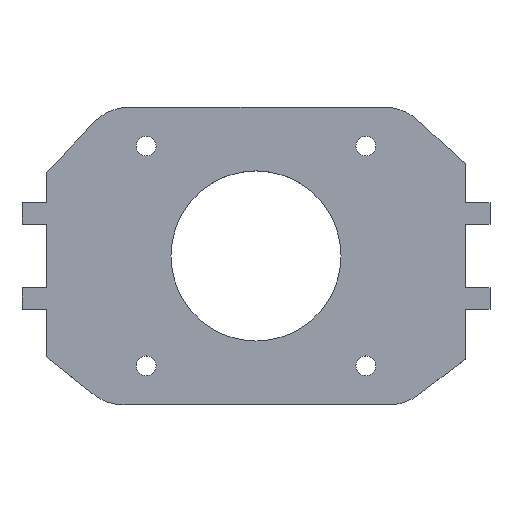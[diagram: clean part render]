
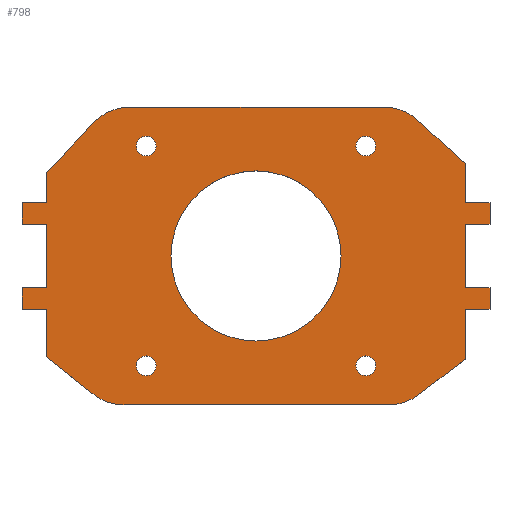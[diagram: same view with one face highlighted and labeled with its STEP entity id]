
A CAD part, top view. The second image highlights one B-rep face of the part: STEP entity #798.
In plain terms, the highlighted planar face has unit normal (0, 0, 1).
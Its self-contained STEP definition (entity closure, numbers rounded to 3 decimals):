
#24=FACE_BOUND('',#135,.T.);
#25=FACE_BOUND('',#136,.T.);
#26=FACE_BOUND('',#137,.T.);
#27=FACE_BOUND('',#138,.T.);
#28=FACE_BOUND('',#139,.T.);
#48=PLANE('',#872);
#82=FACE_OUTER_BOUND('',#134,.T.);
#134=EDGE_LOOP('',(#653,#654,#655,#656,#657,#658,#659,#660,#661,#662,#663,
#664,#665,#666,#667,#668,#669,#670,#671,#672,#673,#674,#675,#676,#677,#678,
#679,#680));
#135=EDGE_LOOP('',(#681));
#136=EDGE_LOOP('',(#682));
#137=EDGE_LOOP('',(#683));
#138=EDGE_LOOP('',(#684));
#139=EDGE_LOOP('',(#685));
#163=LINE('',#1142,#248);
#166=LINE('',#1155,#251);
#171=LINE('',#1171,#256);
#176=LINE('',#1186,#261);
#178=LINE('',#1190,#263);
#182=LINE('',#1198,#267);
#202=LINE('',#1253,#287);
#204=LINE('',#1257,#289);
#206=LINE('',#1262,#291);
#209=LINE('',#1267,#294);
#211=LINE('',#1271,#296);
#212=LINE('',#1273,#297);
#214=LINE('',#1278,#299);
#216=LINE('',#1281,#301);
#217=LINE('',#1284,#302);
#218=LINE('',#1286,#303);
#219=LINE('',#1290,#304);
#220=LINE('',#1294,#305);
#221=LINE('',#1295,#306);
#222=LINE('',#1297,#307);
#223=LINE('',#1299,#308);
#224=LINE('',#1303,#309);
#225=LINE('',#1307,#310);
#226=LINE('',#1308,#311);
#248=VECTOR('',#917,3.);
#251=VECTOR('',#930,3.);
#256=VECTOR('',#945,3.);
#261=VECTOR('',#960,3.5);
#263=VECTOR('',#964,13.);
#267=VECTOR('',#970,10.);
#287=VECTOR('',#1012,3.5);
#289=VECTOR('',#1016,10.);
#291=VECTOR('',#1020,10.);
#294=VECTOR('',#1025,13.);
#296=VECTOR('',#1029,10.);
#297=VECTOR('',#1032,10.);
#299=VECTOR('',#1036,10.);
#301=VECTOR('',#1040,3.);
#302=VECTOR('',#1043,10.);
#303=VECTOR('',#1044,8.343);
#304=VECTOR('',#1047,37.317);
#305=VECTOR('',#1050,8.235);
#306=VECTOR('',#1051,5.043);
#307=VECTOR('',#1052,10.);
#308=VECTOR('',#1053,9.073);
#309=VECTOR('',#1056,35.878);
#310=VECTOR('',#1059,9.641);
#311=VECTOR('',#1060,2.282);
#346=CIRCLE('',#873,7.);
#347=CIRCLE('',#874,7.);
#348=CIRCLE('',#875,7.);
#349=CIRCLE('',#876,7.);
#350=CIRCLE('',#877,1.4);
#351=CIRCLE('',#878,1.4);
#352=CIRCLE('',#879,12.);
#353=CIRCLE('',#880,1.4);
#354=CIRCLE('',#881,1.4);
#357=VERTEX_POINT('',#1135);
#360=VERTEX_POINT('',#1140);
#364=VERTEX_POINT('',#1152);
#365=VERTEX_POINT('',#1154);
#370=VERTEX_POINT('',#1168);
#371=VERTEX_POINT('',#1170);
#376=VERTEX_POINT('',#1185);
#377=VERTEX_POINT('',#1189);
#380=VERTEX_POINT('',#1197);
#405=VERTEX_POINT('',#1255);
#406=VERTEX_POINT('',#1259);
#407=VERTEX_POINT('',#1261);
#408=VERTEX_POINT('',#1265);
#409=VERTEX_POINT('',#1269);
#410=VERTEX_POINT('',#1275);
#411=VERTEX_POINT('',#1277);
#412=VERTEX_POINT('',#1283);
#413=VERTEX_POINT('',#1285);
#414=VERTEX_POINT('',#1287);
#415=VERTEX_POINT('',#1289);
#416=VERTEX_POINT('',#1291);
#417=VERTEX_POINT('',#1293);
#418=VERTEX_POINT('',#1296);
#419=VERTEX_POINT('',#1298);
#420=VERTEX_POINT('',#1300);
#421=VERTEX_POINT('',#1302);
#422=VERTEX_POINT('',#1304);
#423=VERTEX_POINT('',#1306);
#424=VERTEX_POINT('',#1309);
#425=VERTEX_POINT('',#1311);
#426=VERTEX_POINT('',#1313);
#427=VERTEX_POINT('',#1315);
#428=VERTEX_POINT('',#1317);
#435=EDGE_CURVE('',#357,#360,#163,.T.);
#440=EDGE_CURVE('',#365,#364,#166,.T.);
#447=EDGE_CURVE('',#371,#370,#171,.T.);
#454=EDGE_CURVE('',#371,#376,#176,.T.);
#456=EDGE_CURVE('',#377,#376,#178,.T.);
#460=EDGE_CURVE('',#380,#357,#182,.T.);
#489=EDGE_CURVE('',#377,#360,#202,.T.);
#491=EDGE_CURVE('',#370,#405,#204,.T.);
#493=EDGE_CURVE('',#406,#407,#206,.T.);
#496=EDGE_CURVE('',#406,#408,#209,.T.);
#498=EDGE_CURVE('',#364,#409,#211,.T.);
#499=EDGE_CURVE('',#365,#408,#212,.T.);
#501=EDGE_CURVE('',#411,#410,#214,.T.);
#503=EDGE_CURVE('',#410,#407,#216,.T.);
#504=EDGE_CURVE('',#405,#412,#217,.T.);
#505=EDGE_CURVE('',#412,#413,#218,.T.);
#506=EDGE_CURVE('',#413,#414,#346,.T.);
#507=EDGE_CURVE('',#414,#415,#219,.T.);
#508=EDGE_CURVE('',#415,#416,#347,.T.);
#509=EDGE_CURVE('',#416,#417,#220,.T.);
#510=EDGE_CURVE('',#417,#411,#221,.T.);
#511=EDGE_CURVE('',#409,#418,#222,.T.);
#512=EDGE_CURVE('',#418,#419,#223,.T.);
#513=EDGE_CURVE('',#419,#420,#348,.T.);
#514=EDGE_CURVE('',#420,#421,#224,.T.);
#515=EDGE_CURVE('',#421,#422,#349,.T.);
#516=EDGE_CURVE('',#422,#423,#225,.T.);
#517=EDGE_CURVE('',#423,#380,#226,.T.);
#518=EDGE_CURVE('',#424,#424,#350,.T.);
#519=EDGE_CURVE('',#425,#425,#351,.T.);
#520=EDGE_CURVE('',#426,#426,#352,.T.);
#521=EDGE_CURVE('',#427,#427,#353,.T.);
#522=EDGE_CURVE('',#428,#428,#354,.T.);
#653=ORIENTED_EDGE('',*,*,#460,.T.);
#654=ORIENTED_EDGE('',*,*,#435,.T.);
#655=ORIENTED_EDGE('',*,*,#489,.F.);
#656=ORIENTED_EDGE('',*,*,#456,.T.);
#657=ORIENTED_EDGE('',*,*,#454,.F.);
#658=ORIENTED_EDGE('',*,*,#447,.T.);
#659=ORIENTED_EDGE('',*,*,#491,.T.);
#660=ORIENTED_EDGE('',*,*,#504,.T.);
#661=ORIENTED_EDGE('',*,*,#505,.T.);
#662=ORIENTED_EDGE('',*,*,#506,.T.);
#663=ORIENTED_EDGE('',*,*,#507,.T.);
#664=ORIENTED_EDGE('',*,*,#508,.T.);
#665=ORIENTED_EDGE('',*,*,#509,.T.);
#666=ORIENTED_EDGE('',*,*,#510,.T.);
#667=ORIENTED_EDGE('',*,*,#501,.T.);
#668=ORIENTED_EDGE('',*,*,#503,.T.);
#669=ORIENTED_EDGE('',*,*,#493,.F.);
#670=ORIENTED_EDGE('',*,*,#496,.T.);
#671=ORIENTED_EDGE('',*,*,#499,.F.);
#672=ORIENTED_EDGE('',*,*,#440,.T.);
#673=ORIENTED_EDGE('',*,*,#498,.T.);
#674=ORIENTED_EDGE('',*,*,#511,.T.);
#675=ORIENTED_EDGE('',*,*,#512,.T.);
#676=ORIENTED_EDGE('',*,*,#513,.T.);
#677=ORIENTED_EDGE('',*,*,#514,.T.);
#678=ORIENTED_EDGE('',*,*,#515,.T.);
#679=ORIENTED_EDGE('',*,*,#516,.T.);
#680=ORIENTED_EDGE('',*,*,#517,.T.);
#681=ORIENTED_EDGE('',*,*,#518,.F.);
#682=ORIENTED_EDGE('',*,*,#519,.F.);
#683=ORIENTED_EDGE('',*,*,#520,.F.);
#684=ORIENTED_EDGE('',*,*,#521,.F.);
#685=ORIENTED_EDGE('',*,*,#522,.F.);
#798=ADVANCED_FACE('',(#82,#24,#25,#26,#27,#28),#48,.T.);
#872=AXIS2_PLACEMENT_3D('',#1282,#1041,#1042);
#873=AXIS2_PLACEMENT_3D('',#1288,#1045,#1046);
#874=AXIS2_PLACEMENT_3D('',#1292,#1048,#1049);
#875=AXIS2_PLACEMENT_3D('',#1301,#1054,#1055);
#876=AXIS2_PLACEMENT_3D('',#1305,#1057,#1058);
#877=AXIS2_PLACEMENT_3D('',#1310,#1061,#1062);
#878=AXIS2_PLACEMENT_3D('',#1312,#1063,#1064);
#879=AXIS2_PLACEMENT_3D('',#1314,#1065,#1066);
#880=AXIS2_PLACEMENT_3D('',#1316,#1067,#1068);
#881=AXIS2_PLACEMENT_3D('',#1318,#1069,#1070);
#917=DIRECTION('',(0.,-1.,0.));
#930=DIRECTION('',(0.,1.,0.));
#945=DIRECTION('',(0.,-1.,0.));
#960=DIRECTION('',(1.,0.,0.));
#964=DIRECTION('',(0.,-1.,0.));
#970=DIRECTION('',(-1.,0.,0.));
#1012=DIRECTION('',(-1.,0.,0.));
#1016=DIRECTION('',(1.,0.,0.));
#1020=DIRECTION('',(1.,0.,0.));
#1025=DIRECTION('',(0.,1.,0.));
#1029=DIRECTION('',(-1.,0.,0.));
#1032=DIRECTION('',(-1.,0.,0.));
#1036=DIRECTION('',(1.,0.,0.));
#1040=DIRECTION('',(0.,1.,0.));
#1041=DIRECTION('center_axis',(0.,0.,1.));
#1042=DIRECTION('ref_axis',(1.,0.,0.));
#1043=DIRECTION('',(0.,-1.,0.));
#1044=DIRECTION('',(0.779,-0.627,0.));
#1045=DIRECTION('center_axis',(0.,0.,1.));
#1046=DIRECTION('ref_axis',(1.,0.,0.));
#1047=DIRECTION('',(1.,0.,0.));
#1048=DIRECTION('center_axis',(0.,0.,1.));
#1049=DIRECTION('ref_axis',(1.,0.,0.));
#1050=DIRECTION('',(0.794,0.609,0.));
#1051=DIRECTION('',(0.,1.,0.));
#1052=DIRECTION('',(0.,1.,0.));
#1053=DIRECTION('',(-0.735,0.678,0.));
#1054=DIRECTION('center_axis',(0.,0.,1.));
#1055=DIRECTION('ref_axis',(1.,0.,0.));
#1056=DIRECTION('',(-1.,0.,0.));
#1057=DIRECTION('center_axis',(0.,0.,1.));
#1058=DIRECTION('ref_axis',(1.,0.,0.));
#1059=DIRECTION('',(-0.686,-0.728,0.));
#1060=DIRECTION('',(0.,-1.,0.));
#1061=DIRECTION('center_axis',(0.,0.,1.));
#1062=DIRECTION('ref_axis',(1.,0.,0.));
#1063=DIRECTION('center_axis',(0.,0.,1.));
#1064=DIRECTION('ref_axis',(1.,0.,0.));
#1065=DIRECTION('center_axis',(0.,0.,1.));
#1066=DIRECTION('ref_axis',(1.,0.,0.));
#1067=DIRECTION('center_axis',(0.,0.,1.));
#1068=DIRECTION('ref_axis',(1.,0.,0.));
#1069=DIRECTION('center_axis',(0.,0.,1.));
#1070=DIRECTION('ref_axis',(1.,0.,0.));
#1135=CARTESIAN_POINT('',(-33.,7.5,3.));
#1140=CARTESIAN_POINT('',(-33.,4.5,3.));
#1142=CARTESIAN_POINT('',(-33.,9.5,3.));
#1152=CARTESIAN_POINT('',(33.,7.5,3.));
#1154=CARTESIAN_POINT('',(33.,4.5,3.));
#1155=CARTESIAN_POINT('',(33.,6.5,3.));
#1168=CARTESIAN_POINT('',(-33.,-7.5,3.));
#1170=CARTESIAN_POINT('',(-33.,-4.5,3.));
#1171=CARTESIAN_POINT('',(-33.,-6.5,3.));
#1185=CARTESIAN_POINT('',(-29.5,-4.5,3.));
#1186=CARTESIAN_POINT('',(-29.5,-4.5,3.));
#1189=CARTESIAN_POINT('',(-29.5,4.5,3.));
#1190=CARTESIAN_POINT('',(-29.5,6.5,3.));
#1197=CARTESIAN_POINT('',(-29.5,7.5,3.));
#1198=CARTESIAN_POINT('',(-14.75,7.5,3.));
#1253=CARTESIAN_POINT('',(-33.,4.5,3.));
#1255=CARTESIAN_POINT('',(-29.5,-7.5,3.));
#1257=CARTESIAN_POINT('',(-15.625,-7.5,3.));
#1259=CARTESIAN_POINT('',(29.5,-4.5,3.));
#1261=CARTESIAN_POINT('',(33.,-4.5,3.));
#1262=CARTESIAN_POINT('',(33.,-4.5,3.));
#1265=CARTESIAN_POINT('',(29.5,4.5,3.));
#1267=CARTESIAN_POINT('',(29.5,-6.5,3.));
#1269=CARTESIAN_POINT('',(29.5,7.5,3.));
#1271=CARTESIAN_POINT('',(15.625,7.5,3.));
#1273=CARTESIAN_POINT('',(29.5,4.5,3.));
#1275=CARTESIAN_POINT('',(33.,-7.5,3.));
#1277=CARTESIAN_POINT('',(29.5,-7.5,3.));
#1278=CARTESIAN_POINT('',(15.625,-7.5,3.));
#1281=CARTESIAN_POINT('',(33.,-9.5,3.));
#1282=CARTESIAN_POINT('Origin',(0.,0.,3.));
#1283=CARTESIAN_POINT('',(-29.5,-14.218,3.));
#1284=CARTESIAN_POINT('',(-29.5,-4.75,3.));
#1285=CARTESIAN_POINT('',(-23.003,-19.451,3.));
#1286=CARTESIAN_POINT('',(-29.5,-14.218,3.));
#1287=CARTESIAN_POINT('',(-18.612,-21.,3.));
#1288=CARTESIAN_POINT('Origin',(-18.612,-14.,3.));
#1289=CARTESIAN_POINT('',(18.706,-21.,3.));
#1290=CARTESIAN_POINT('',(-18.612,-21.,3.));
#1291=CARTESIAN_POINT('',(22.965,-19.555,3.));
#1292=CARTESIAN_POINT('Origin',(18.706,-14.,3.));
#1293=CARTESIAN_POINT('',(29.5,-14.543,3.));
#1294=CARTESIAN_POINT('',(22.965,-19.555,3.));
#1295=CARTESIAN_POINT('',(29.5,-14.543,3.));
#1296=CARTESIAN_POINT('',(29.5,13.,3.));
#1297=CARTESIAN_POINT('',(29.5,4.75,3.));
#1298=CARTESIAN_POINT('',(22.827,19.148,3.));
#1299=CARTESIAN_POINT('',(29.5,13.,3.));
#1300=CARTESIAN_POINT('',(18.084,21.,3.));
#1301=CARTESIAN_POINT('Origin',(18.084,14.,3.));
#1302=CARTESIAN_POINT('',(-17.794,21.,3.));
#1303=CARTESIAN_POINT('',(18.084,21.,3.));
#1304=CARTESIAN_POINT('',(-22.89,18.8,3.));
#1305=CARTESIAN_POINT('Origin',(-17.794,14.,3.));
#1306=CARTESIAN_POINT('',(-29.5,11.782,3.));
#1307=CARTESIAN_POINT('',(-22.89,18.8,3.));
#1308=CARTESIAN_POINT('',(-29.5,11.782,3.));
#1309=CARTESIAN_POINT('',(16.9,15.5,3.));
#1310=CARTESIAN_POINT('Origin',(15.5,15.5,3.));
#1311=CARTESIAN_POINT('',(16.9,-15.5,3.));
#1312=CARTESIAN_POINT('Origin',(15.5,-15.5,3.));
#1313=CARTESIAN_POINT('',(12.,0.,3.));
#1314=CARTESIAN_POINT('Origin',(0.,0.,3.));
#1315=CARTESIAN_POINT('',(-14.1,-15.5,3.));
#1316=CARTESIAN_POINT('Origin',(-15.5,-15.5,3.));
#1317=CARTESIAN_POINT('',(-14.1,15.5,3.));
#1318=CARTESIAN_POINT('Origin',(-15.5,15.5,3.));
